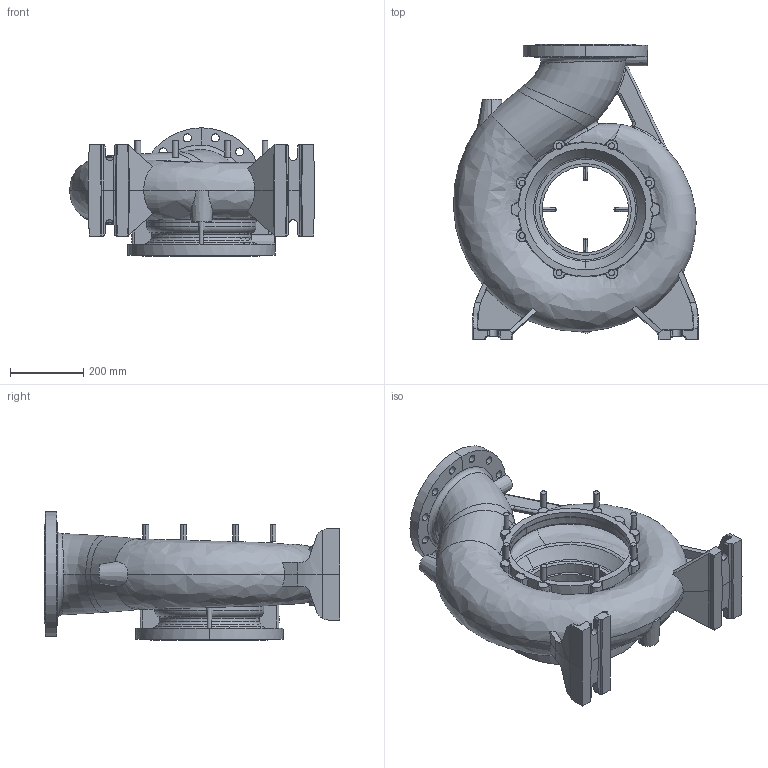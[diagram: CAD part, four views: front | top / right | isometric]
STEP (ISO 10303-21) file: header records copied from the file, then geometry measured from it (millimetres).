
FILE_DESCRIPTION (( 'STEP AP203' ), '1' );
FILE_NAME ('NM 200-315.STEP', '2016-11-11T06:25:46', ( '' ), ( '' ), 'SwSTEP 2.0', 'SolidWorks 2015', '' );
FILE_SCHEMA (( 'CONFIG_CONTROL_DESIGN' ));
Length unit declared in the file: millimetre
Products named in the file (1): NM 200-315
Bounding box: 668.16 x 805 x 350.1 mm (x, y, z)
Volume: 19530006.1 mm3; surface area: 2536003.1 mm2
Topology: 9 solids, 9 shells, 555 faces, 1539 edges, 975 vertices
Faces by surface type: plane 172, cone 134, cylinder 124, bspline 72, torus 36, sphere 17
Entity records: 53486 total; most frequent: CARTESIAN_POINT 40395, ORIENTED_EDGE 3042, DIRECTION 2323, EDGE_CURVE 1521, VERTEX_POINT 975, AXIS2_PLACEMENT_3D 921, EDGE_LOOP 600, ADVANCED_FACE 555
